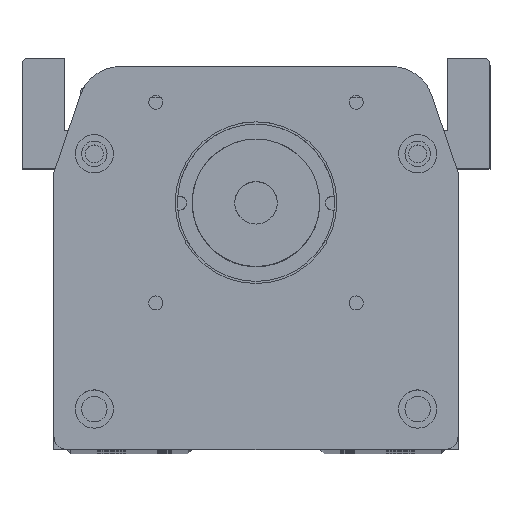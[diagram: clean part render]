
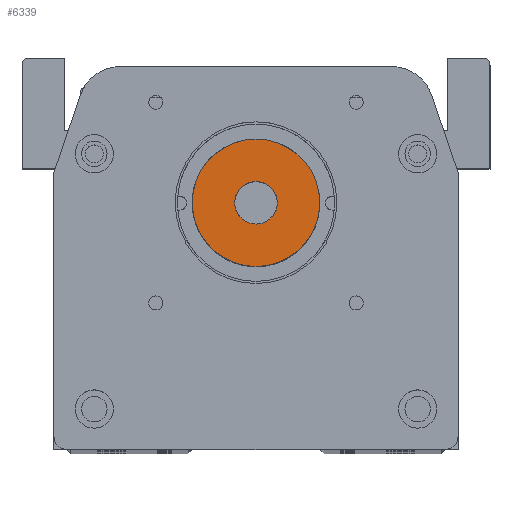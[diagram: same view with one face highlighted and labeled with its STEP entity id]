
A CAD part, top view. The second image highlights one B-rep face of the part: STEP entity #6339.
In plain terms, the highlighted planar face has unit normal (0, 0, 1).
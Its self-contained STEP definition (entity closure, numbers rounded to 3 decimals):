
#2504 = ORIENTED_EDGE ( 'NONE', *, *, #9334, .F. ) ;
#3972 = CARTESIAN_POINT ( 'NONE',  ( -21.138, 0., 40.753 ) ) ;
#4884 = EDGE_LOOP ( 'NONE', ( #38666, #27849 ) ) ;
#4893 = CIRCLE ( 'NONE', #17170, 14.978 ) ;
#5715 = CARTESIAN_POINT ( 'NONE',  ( -6.16, 0., 40.753 ) ) ;
#6339 = ADVANCED_FACE ( 'NONE', ( #13630, #38253 ), #35924, .T. ) ;
#6462 = EDGE_LOOP ( 'NONE', ( #9607, #2504 ) ) ;
#8245 = VERTEX_POINT ( 'NONE', #15572 ) ;
#9334 = EDGE_CURVE ( 'NONE', #8245, #38871, #35930, .T. ) ;
#9347 = DIRECTION ( 'NONE',  ( 0., 0., 1. ) ) ;
#9607 = ORIENTED_EDGE ( 'NONE', *, *, #33678, .F. ) ;
#11034 = EDGE_CURVE ( 'NONE', #22994, #18741, #4893, .T. ) ;
#13353 = DIRECTION ( 'NONE',  ( 0., 0., 1. ) ) ;
#13440 = AXIS2_PLACEMENT_3D ( 'NONE', #5715, #15838, #39322 ) ;
#13630 = FACE_OUTER_BOUND ( 'NONE', #4884, .T. ) ;
#14017 = DIRECTION ( 'NONE',  ( 0., 0., 1. ) ) ;
#15048 = CARTESIAN_POINT ( 'NONE',  ( -6.16, 0., 40.753 ) ) ;
#15572 = CARTESIAN_POINT ( 'NONE',  ( -1.157, 0., 40.753 ) ) ;
#15838 = DIRECTION ( 'NONE',  ( 0., 0., 1. ) ) ;
#17170 = AXIS2_PLACEMENT_3D ( 'NONE', #34140, #14017, #37477 ) ;
#18433 = DIRECTION ( 'NONE',  ( 1., 0., 0. ) ) ;
#18741 = VERTEX_POINT ( 'NONE', #3972 ) ;
#19361 = CARTESIAN_POINT ( 'NONE',  ( -11.163, 0., 40.753 ) ) ;
#19505 = EDGE_CURVE ( 'NONE', #18741, #22994, #36691, .T. ) ;
#22994 = VERTEX_POINT ( 'NONE', #34823 ) ;
#23893 = AXIS2_PLACEMENT_3D ( 'NONE', #33445, #13353, #36777 ) ;
#27849 = ORIENTED_EDGE ( 'NONE', *, *, #11034, .T. ) ;
#29451 = CARTESIAN_POINT ( 'NONE',  ( -6.16, 0., 40.753 ) ) ;
#32836 = DIRECTION ( 'NONE',  ( 1., 0., 0. ) ) ;
#33445 = CARTESIAN_POINT ( 'NONE',  ( -6.16, 0., 40.753 ) ) ;
#33678 = EDGE_CURVE ( 'NONE', #38871, #8245, #35681, .T. ) ;
#34140 = CARTESIAN_POINT ( 'NONE',  ( -6.16, 0., 40.753 ) ) ;
#34823 = CARTESIAN_POINT ( 'NONE',  ( 8.817, 0., 40.753 ) ) ;
#35681 = CIRCLE ( 'NONE', #23893, 5.003 ) ;
#35924 = PLANE ( 'NONE',  #13440 ) ;
#35930 = CIRCLE ( 'NONE', #36480, 5.003 ) ;
#36480 = AXIS2_PLACEMENT_3D ( 'NONE', #15048, #38504, #18433 ) ;
#36655 = AXIS2_PLACEMENT_3D ( 'NONE', #29451, #9347, #32836 ) ;
#36691 = CIRCLE ( 'NONE', #36655, 14.978 ) ;
#36777 = DIRECTION ( 'NONE',  ( 1., 0., 0. ) ) ;
#37477 = DIRECTION ( 'NONE',  ( 1., 0., 0. ) ) ;
#38253 = FACE_BOUND ( 'NONE', #6462, .T. ) ;
#38504 = DIRECTION ( 'NONE',  ( 0., 0., 1. ) ) ;
#38666 = ORIENTED_EDGE ( 'NONE', *, *, #19505, .T. ) ;
#38871 = VERTEX_POINT ( 'NONE', #19361 ) ;
#39322 = DIRECTION ( 'NONE',  ( 1., 0., 0. ) ) ;
